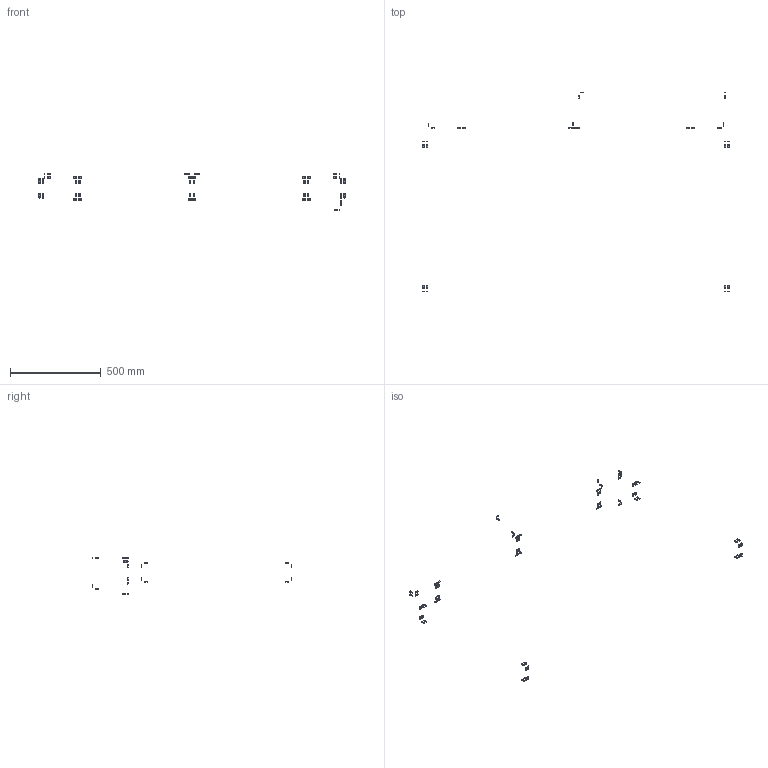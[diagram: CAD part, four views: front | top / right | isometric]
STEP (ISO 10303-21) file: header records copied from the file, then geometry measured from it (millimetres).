
FILE_DESCRIPTION(/* description */ (''),/* implementation_level */ '2;1');
FILE_NAME(/* name */ 'FR9C84~1',/* time_stamp */ '2014-02-14T19:34:05+01:00',/* author */ (''),/* organization */ (''),/* preprocessor_version */ 'ST-DEVELOPER v14',/* originating_system */ '',/* authorisation */ '');
FILE_SCHEMA (('AUTOMOTIVE_DESIGN'));
Length unit declared in the file: millimetre
Products named in the file (2): Document; nut tslot, post, M5
Assembly tree (38 placements, depth 2):
  Document
    nut tslot, post, M5  x38
Bounding box: 1688.3 x 1100.4 x 208.3 mm (x, y, z)
Volume: 22681.4 mm3; surface area: 30205.5 mm2
Topology: 72 solids, 72 shells, 936 faces, 2592 edges, 1728 vertices
Faces by surface type: plane 792, bspline 144
Entity records: 33665 total; most frequent: CARTESIAN_POINT 16001, B_SPLINE_CURVE_WITH_KNOTS 3500, ORIENTED_EDGE 2520, PCURVE 2520, DEFINITIONAL_REPRESENTATION 2520, SURFACE_CURVE 1260, EDGE_CURVE 1260, VERTEX_POINT 840
